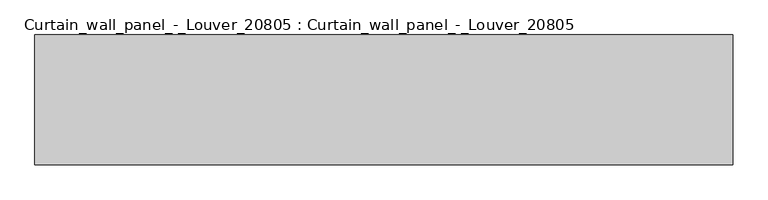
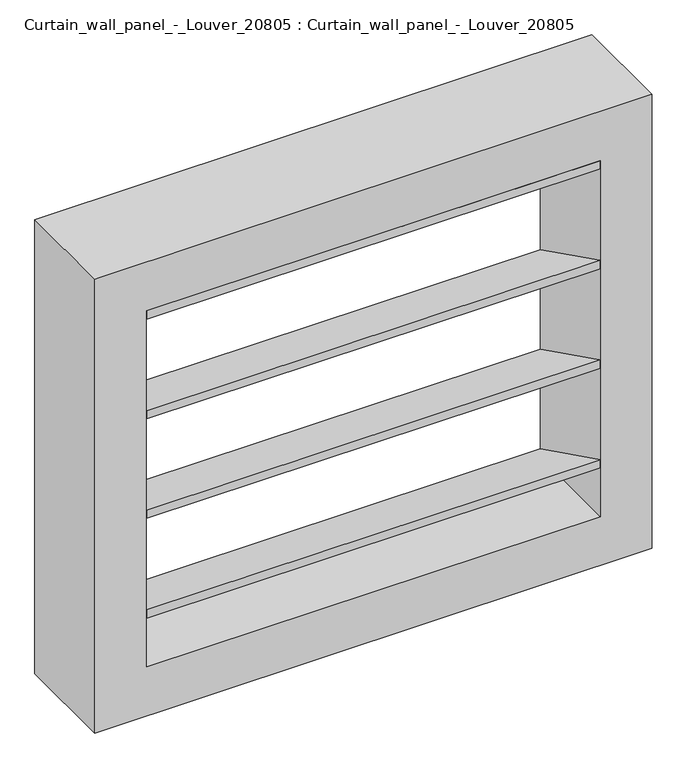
"""IFC4 building model written with IfcOpenShell, lengths in millimetres: plate geometry, Curtain_wall_panel_-_Louver_20805 : Curtain_wall_panel_-_Louver_20805."""

from ifc_helpers import new_model, si_unit, frame, origin, place, context, project, spatial, polyline, outline, extrude, source, transform, mapped, element, save


def curtain_wall_panel_louver_20805_curtain_wall_panel_louver_10796ba8(model_context):
    return source(origin(), model_context, "Body", "SweptSolid", [
        extrude(outline(polyline([(-200.0, 605.2950441), (-200.0, 622.044977), (0.0, 522.6599789), (0.0, 505.910046), (-200.0, 605.2950441)])), frame((-437.2499999, 0.0, 0.0), z_axis=(1.0, 0.0, 0.0), x_axis=(0.0, 1.0, 0.0)), (0.0, 0.0, 1.0), 874.4999999),
        extrude(outline(polyline([(-200.0, 402.3400211), (-200.0, 419.089954), (0.0, 319.7049559), (0.0, 302.955023), (-200.0, 402.3400211)])), frame((-437.2499999, 0.0, 0.0), z_axis=(1.0, 0.0, 0.0), x_axis=(0.0, 1.0, 0.0)), (0.0, 0.0, 1.0), 874.4999999),
        extrude(outline(polyline([(-200.0, 808.2500672), (-200.0, 825.0), (0.0, 725.6150019), (0.0, 708.8650691), (-200.0, 808.2500672)])), frame((-437.2499999, 0.0, 0.0), z_axis=(1.0, 0.0, 0.0), x_axis=(0.0, 1.0, 0.0)), (0.0, 0.0, 1.0), 874.4999999),
        extrude(outline(polyline([(-200.0, 199.3849981), (-200.0, 216.1349309), (0.0, 116.7499328), (0.0, 100.0), (-200.0, 199.3849981)])), frame((-437.2499999, 0.0, 0.0), z_axis=(1.0, 0.0, 0.0), x_axis=(0.0, 1.0, 0.0)), (0.0, 0.0, 1.0), 874.4999999),
        extrude(outline(polyline([(925.0, -537.2499999), (0.0, -537.2499999), (0.0, 537.2499999), (925.0, 537.2499999), (925.0, -537.2499999)]), holes=[polyline([(825.0, -437.2499999), (825.0, 437.2499999), (100.0, 437.2499999), (100.0, -437.2499999), (825.0, -437.2499999)])]), frame((0.0, -200.0, 0.0), z_axis=(0.0, 1.0, 0.0), x_axis=(0.0, 0.0, 1.0)), (0.0, 0.0, 1.0), 200.0),
    ])


if __name__ == "__main__":
    model = new_model("IFC4")
    model_context = context("Model", 3, world=origin())
    ifc_project = project(units=[si_unit("LENGTHUNIT", "METRE", prefix="MILLI")], contexts=[model_context])
    site = spatial("IfcSite", under=ifc_project)
    building = spatial("IfcBuilding", under=site)
    placement = place(None, origin())
    curtain_wall_panel_louver_20805_curtain_wall_panel_louver_shape = curtain_wall_panel_louver_20805_curtain_wall_panel_louver_10796ba8(model_context)
    element("IfcPlate", 1, ObjectType="Curtain_wall_panel_-_Louver_20805 : Curtain_wall_panel_-_Louver_20805", at=placement, inside=building, context=model_context, shape_type="MappedRepresentation", body=[
        mapped(curtain_wall_panel_louver_20805_curtain_wall_panel_louver_shape, transform((0.0, 0.0, 0.0), x_axis=(1.0, 0.0, 0.0), y_axis=(0.0, 1.0, 0.0), z_axis=(0.0, 0.0, 1.0))),
    ])
    save(model, "model.ifc")
